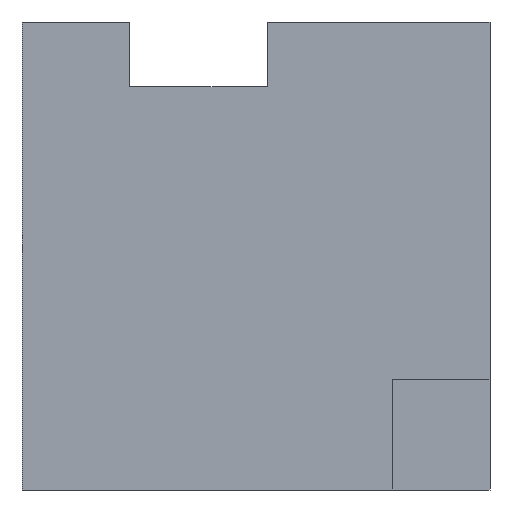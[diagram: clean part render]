
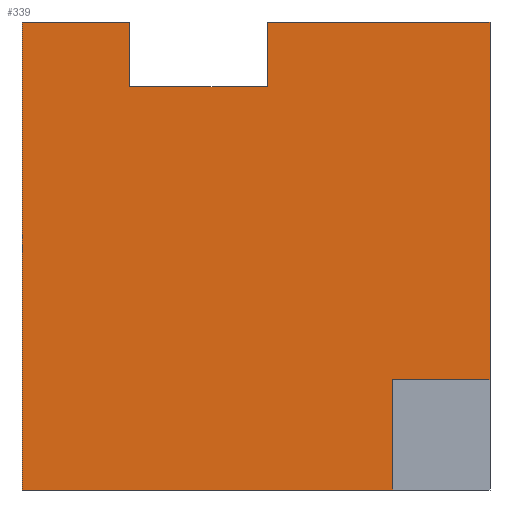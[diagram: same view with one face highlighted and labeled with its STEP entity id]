
A CAD part, front view. The second image highlights one B-rep face of the part: STEP entity #339.
In plain terms, the highlighted planar face has unit normal (0, -1, 0).
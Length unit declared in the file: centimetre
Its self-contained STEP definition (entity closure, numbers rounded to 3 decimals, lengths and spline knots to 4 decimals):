
#13 = ORIENTED_EDGE ( 'NONE', *, *, #175, .T. ) ;
#23 = CARTESIAN_POINT ( 'NONE',  ( 1000., 0., 1000. ) ) ;
#49 = VECTOR ( 'NONE', #408, 100. ) ;
#51 = CARTESIAN_POINT ( 'NONE',  ( 0., 0., 1000. ) ) ;
#66 = CARTESIAN_POINT ( 'NONE',  ( 229.6197, 0., 861.2306 ) ) ;
#67 = CARTESIAN_POINT ( 'NONE',  ( 0., 0., 1000. ) ) ;
#72 = DIRECTION ( 'NONE',  ( 1., 0., 0. ) ) ;
#75 = CARTESIAN_POINT ( 'NONE',  ( 0., 0., 1000. ) ) ;
#79 = DIRECTION ( 'NONE',  ( 0., 0., -1. ) ) ;
#104 = LINE ( 'NONE', #208, #480 ) ;
#113 = CARTESIAN_POINT ( 'NONE',  ( 791.846, 0., 0. ) ) ;
#124 = PLANE ( 'NONE',  #510 ) ;
#126 = CARTESIAN_POINT ( 'NONE',  ( 0., 0., 0. ) ) ;
#146 = DIRECTION ( 'NONE',  ( 0., 0., -1. ) ) ;
#166 = EDGE_CURVE ( 'NONE', #598, #279, #427, .T. ) ;
#168 = ORIENTED_EDGE ( 'NONE', *, *, #228, .T. ) ;
#170 = VERTEX_POINT ( 'NONE', #113 ) ;
#173 = LINE ( 'NONE', #360, #594 ) ;
#175 = EDGE_CURVE ( 'NONE', #439, #233, #333, .T. ) ;
#177 = CARTESIAN_POINT ( 'NONE',  ( 524.2948, 0., 861.2306 ) ) ;
#189 = ORIENTED_EDGE ( 'NONE', *, *, #278, .F. ) ;
#200 = VECTOR ( 'NONE', #79, 100. ) ;
#201 = VECTOR ( 'NONE', #496, 100. ) ;
#208 = CARTESIAN_POINT ( 'NONE',  ( 791.846, 0., 0. ) ) ;
#209 = VERTEX_POINT ( 'NONE', #347 ) ;
#213 = CARTESIAN_POINT ( 'NONE',  ( 0., 0., 1000. ) ) ;
#224 = CARTESIAN_POINT ( 'NONE',  ( 524.2948, 0., 861.2306 ) ) ;
#228 = EDGE_CURVE ( 'NONE', #403, #170, #431, .T. ) ;
#233 = VERTEX_POINT ( 'NONE', #529 ) ;
#238 = EDGE_CURVE ( 'NONE', #598, #403, #570, .T. ) ;
#244 = CARTESIAN_POINT ( 'NONE',  ( 0., 0., 0. ) ) ;
#253 = LINE ( 'NONE', #67, #509 ) ;
#257 = DIRECTION ( 'NONE',  ( 0., 0., -1. ) ) ;
#263 = VECTOR ( 'NONE', #470, 100. ) ;
#266 = LINE ( 'NONE', #66, #201 ) ;
#278 = EDGE_CURVE ( 'NONE', #469, #170, #104, .T. ) ;
#279 = VERTEX_POINT ( 'NONE', #396 ) ;
#291 = DIRECTION ( 'NONE',  ( 1., 0., 0. ) ) ;
#297 = EDGE_CURVE ( 'NONE', #311, #358, #253, .T. ) ;
#311 = VERTEX_POINT ( 'NONE', #537 ) ;
#327 = VECTOR ( 'NONE', #291, 100. ) ;
#333 = LINE ( 'NONE', #393, #543 ) ;
#335 = VECTOR ( 'NONE', #146, 100. ) ;
#338 = DIRECTION ( 'NONE',  ( -1., 0., 0. ) ) ;
#339 = ADVANCED_FACE ( 'NONE', ( #433 ), #124, .F. ) ;
#347 = CARTESIAN_POINT ( 'NONE',  ( 1000., 0., 236.0022 ) ) ;
#358 = VERTEX_POINT ( 'NONE', #483 ) ;
#359 = LINE ( 'NONE', #23, #49 ) ;
#360 = CARTESIAN_POINT ( 'NONE',  ( 791.846, 0., 236.0022 ) ) ;
#364 = ORIENTED_EDGE ( 'NONE', *, *, #440, .T. ) ;
#377 = ORIENTED_EDGE ( 'NONE', *, *, #401, .F. ) ;
#393 = CARTESIAN_POINT ( 'NONE',  ( 229.6197, 0., 861.2306 ) ) ;
#396 = CARTESIAN_POINT ( 'NONE',  ( 229.6197, 0., 1000. ) ) ;
#400 = DIRECTION ( 'NONE',  ( 0., 1., 0. ) ) ;
#401 = EDGE_CURVE ( 'NONE', #209, #469, #173, .T. ) ;
#402 = ORIENTED_EDGE ( 'NONE', *, *, #584, .F. ) ;
#403 = VERTEX_POINT ( 'NONE', #126 ) ;
#408 = DIRECTION ( 'NONE',  ( 0., 0., -1. ) ) ;
#412 = LINE ( 'NONE', #177, #200 ) ;
#423 = ORIENTED_EDGE ( 'NONE', *, *, #600, .T. ) ;
#427 = LINE ( 'NONE', #51, #327 ) ;
#431 = LINE ( 'NONE', #244, #263 ) ;
#433 = FACE_OUTER_BOUND ( 'NONE', #542, .T. ) ;
#435 = ORIENTED_EDGE ( 'NONE', *, *, #166, .F. ) ;
#439 = VERTEX_POINT ( 'NONE', #224 ) ;
#440 = EDGE_CURVE ( 'NONE', #311, #439, #412, .T. ) ;
#469 = VERTEX_POINT ( 'NONE', #593 ) ;
#470 = DIRECTION ( 'NONE',  ( 1., 0., 0. ) ) ;
#480 = VECTOR ( 'NONE', #257, 100. ) ;
#483 = CARTESIAN_POINT ( 'NONE',  ( 1000., 0., 1000. ) ) ;
#496 = DIRECTION ( 'NONE',  ( 0., 0., 1. ) ) ;
#509 = VECTOR ( 'NONE', #72, 100. ) ;
#510 = AXIS2_PLACEMENT_3D ( 'NONE', #213, #400, #534 ) ;
#513 = ORIENTED_EDGE ( 'NONE', *, *, #238, .T. ) ;
#529 = CARTESIAN_POINT ( 'NONE',  ( 229.6197, 0., 861.2306 ) ) ;
#534 = DIRECTION ( 'NONE',  ( 0., 0., 1. ) ) ;
#537 = CARTESIAN_POINT ( 'NONE',  ( 524.2948, 0., 1000. ) ) ;
#541 = DIRECTION ( 'NONE',  ( -1., 0., 0. ) ) ;
#542 = EDGE_LOOP ( 'NONE', ( #168, #189, #377, #402, #588, #364, #13, #423, #435, #513 ) ) ;
#543 = VECTOR ( 'NONE', #338, 100. ) ;
#560 = CARTESIAN_POINT ( 'NONE',  ( 0., 0., 1000. ) ) ;
#570 = LINE ( 'NONE', #560, #335 ) ;
#584 = EDGE_CURVE ( 'NONE', #358, #209, #359, .T. ) ;
#588 = ORIENTED_EDGE ( 'NONE', *, *, #297, .F. ) ;
#593 = CARTESIAN_POINT ( 'NONE',  ( 791.846, 0., 236.0022 ) ) ;
#594 = VECTOR ( 'NONE', #541, 100. ) ;
#598 = VERTEX_POINT ( 'NONE', #75 ) ;
#600 = EDGE_CURVE ( 'NONE', #233, #279, #266, .T. ) ;
